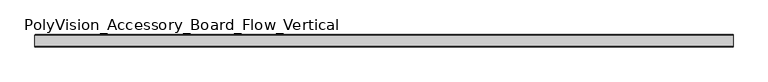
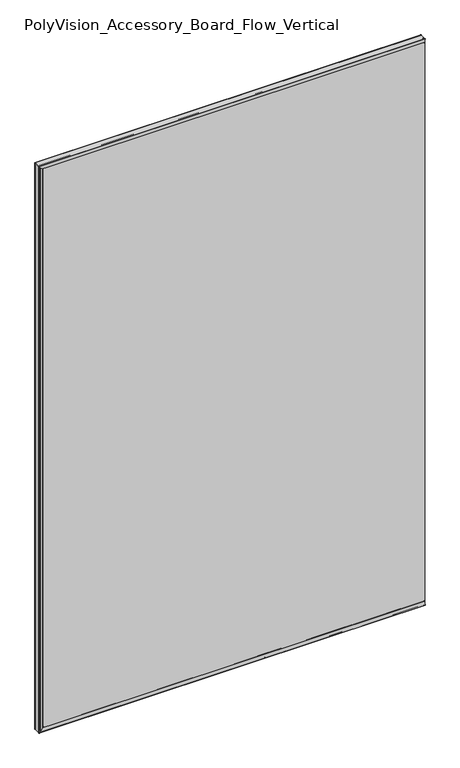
"""IFC4 building model written with IfcOpenShell, lengths in millimetres: furniture geometry, PolyVision_Accessory_Board_Flow_Vertical : 47W x 72H (1185 W x 1830 H)."""

from ifc_helpers import new_model, si_unit, point, frame, frame_2d, origin, place, context, project, spatial, polyline, circle_curve, ellipse_curve, trimmed, segment, composite_curve, outline, extrude, source, transform, mapped, element, save
from ifc_brep_helpers import plane_surface, cylinder_surface, revolved_surface, advanced_brep


def polyvision_accessory_board_flow_vertical_5f54c6b5(model_context):
    return source(origin(), model_context, "Body", "SolidModel", [
        extrude(outline(polyline([(-2.1773004, 1827.6977202), (-2.1773004, 1826.8340763), (11.9065147, 1826.8340763), (11.9065147, 1824.149308), (7.6861579, 1824.149308), (7.6861579, 1817.1597246), (11.9065147, 1814.0934559), (11.9065147, 1804.1500962), (8.0075268, 1801.3173157), (7.7813476, 1800.4732034), (9.5131033, 1798.0), (7.5873908, 1798.0), (6.1707503, 1800.0231723), (6.1707503, 1801.7730492), (10.4011044, 1804.8465813), (10.4011044, 1813.2889188), (6.1707503, 1816.3624509), (6.1707503, 1823.2252503), (5.2024973, 1823.2252503), (4.2308366, 1824.3425727), (3.1736041, 1823.2853402), (2.1319224, 1824.3270218), (1.2210895, 1823.2415334), (0.4403969, 1824.2407744), (-0.5343781, 1823.2659994), (-1.3255269, 1823.2659994), (-1.3255269, 1824.7318758), (-2.1773004, 1824.7318758), (-2.1773004, 1823.8660166), (-5.4323759, 1824.6775981), (-5.4323759, 1826.8964971), (-2.1773004, 1827.6977202)])), frame((-587.0671964, 0.0, 0.0), z_axis=(1.0, 0.0, 0.0), x_axis=(0.0, 1.0, 0.0)), (0.0, 0.0, 1.0), 1174.1343929),
        extrude(outline(polyline([(-2.1773004, 3.0522798), (-5.4323759, 3.8535029), (-5.4323759, 6.0724019), (-2.1773004, 6.8839834), (-2.1773004, 6.0181242), (-1.3255269, 6.0181242), (-1.3255269, 7.4840006), (-0.5343781, 7.4840006), (0.4403969, 6.5092256), (1.2210895, 7.5084666), (2.1319224, 6.4229782), (3.1736041, 7.4646598), (4.2308366, 6.4074273), (5.2024973, 7.5247497), (6.1707503, 7.5247497), (6.1707503, 14.3875491), (10.4011044, 17.4610812), (10.4011044, 25.9034187), (6.1707503, 28.9769508), (6.1707503, 30.7268277), (11.9065147, 38.9183482), (11.9065147, 36.1681457), (7.7813476, 30.2767966), (8.0075268, 29.4326843), (11.9065147, 26.5999038), (11.9065147, 16.6565441), (7.6861579, 13.5902754), (7.6861579, 6.600692), (11.9065147, 6.600692), (11.9065147, 3.9159237), (-2.1773004, 3.9159237), (-2.1773004, 3.0522798)])), frame((-587.0671964, 0.0, 0.0), z_axis=(1.0, 0.0, 0.0), x_axis=(0.0, 1.0, 0.0)), (0.0, 0.0, 1.0), 1174.1343929),
        extrude(outline(polyline([(587.0671964, -6.2220176), (587.0671964, -7.0048301), (-587.0671964, -7.0048301), (-587.0671964, -6.2220176), (587.0671964, -6.2220176)])), frame((0.0, 0.0, 7.0), z_axis=(0.0, 0.0, 1.0), x_axis=(1.0, 0.0, 0.0)), (0.0, 0.0, 1.0), 1817.0),
        extrude(outline(polyline([(585.0671964, 5.9853098), (585.0671964, 5.2024973), (-585.0671964, 5.2024973), (-585.0671964, 5.9853098), (585.0671964, 5.9853098)])), frame((0.0, 0.0, 7.0), z_axis=(0.0, 0.0, 1.0), x_axis=(1.0, 0.0, 0.0)), (0.0, 0.0, 1.0), 1817.0),
        advanced_brep(
        [(587.0671964, -8.6715851, 1829.4960719), (587.0671964, -7.0765247, 1816.4301188), (587.0671964, -6.4849935, 1816.5113924), (587.0671964, -6.7536539, 1823.5810127), (587.0671964, -6.2540145, 1824.1), (587.0671964, -1.2728233, 1824.1), (587.0671964, -1.2728233, 1825.0075276), (587.0671964, -3.0119913, 1824.6901588), (587.0671964, -5.2722627, 1824.6901588), (587.0671964, -6.5482658, 1825.0125), (587.0671964, -6.5482658, 1827.54375), (587.0671964, -4.1898472, 1828.1395287), (587.0671964, -3.6232202, 1827.487699), (587.0671964, -2.5584614, 1828.0926138), (587.0671964, -1.9673188, 1827.5014712), (587.0671964, -1.2361675, 1828.0), (587.0671964, 1.7766235, 1828.0), (587.0671964, 3.5266235, 1827.3), (587.0671964, 11.3266235, 1827.3), (587.0671964, 11.8266235, 1827.8), (587.0671964, 11.8266235, 1829.5), (587.0671964, 11.3266235, 1830.0), (587.0671964, -8.1716005, 1830.0), (587.0671964, -8.6715851, 1.5039281), (587.0671964, -8.1716005, 1.0), (587.0671964, 11.3266235, 1.0), (587.0671964, 11.8266235, 1.5), (587.0671964, 11.8266235, 3.2), (587.0671964, 11.3266235, 3.7), (587.0671964, 3.5266235, 3.7), (587.0671964, 1.7766235, 3.0), (587.0671964, -1.2361675, 3.0), (587.0671964, -1.9673188, 3.4985288), (587.0671964, -2.5584614, 2.9073862), (587.0671964, -3.6232202, 3.512301), (587.0671964, -4.1898472, 2.8604713), (587.0671964, -6.5482658, 3.45625), (587.0671964, -6.5482658, 5.9875), (587.0671964, -5.2722627, 6.3098412), (587.0671964, -3.0119913, 6.3098412), (587.0671964, -1.2728233, 5.9924724), (587.0671964, -1.2728233, 6.9), (587.0671964, -6.2540145, 6.9), (587.0671964, -6.7536539, 7.4189873), (587.0671964, -6.4849935, 14.4886076), (587.0671964, -7.0765247, 14.5698812), (-592.5, -8.1716005, 1830.0), (-591.9960719, -8.6715851, 1829.4960719), (-592.5, 11.3266235, 1830.0), (-592.0, 11.8266235, 1829.5), (-590.3, 11.8266235, 1827.8), (-590.3, 11.8266235, 3.2), (-592.0, 11.8266235, 1.5), (-589.8, 11.3266235, 1827.3), (-589.8, 3.5266235, 1827.3), (-590.5, 1.7766235, 1828.0), (-590.5, -1.2361675, 1828.0), (-590.0014712, -1.9673188, 1827.5014712), (-590.5926138, -2.5584614, 1828.0926138), (-589.987699, -3.6232202, 1827.487699), (-590.6395287, -4.1898472, 1828.1395287), (-590.04375, -6.5482658, 1827.54375), (-587.5125, -6.5482658, 1825.0125), (-587.5125, -6.5482658, 5.9875), (-590.04375, -6.5482658, 3.45625), (-587.1901588, -5.2722627, 1824.6901588), (-587.1901588, -3.0119913, 1824.6901588), (-587.5075276, -1.2728233, 1825.0075276), (-586.6, -1.2728233, 1824.1), (-586.6, -1.2728233, 6.9), (-587.5075276, -1.2728233, 5.9924724), (-586.6, -6.2540145, 1824.1), (-586.0810127, -6.7536539, 1823.5810127), (-579.0113924, -6.4849935, 1816.5113924), (-578.9301188, -7.0765247, 1816.4301188), (-592.5, -8.1716005, 1.0), (-591.9960719, -8.6715851, 1.5039281), (-592.5, 11.3266235, 1.0), (-589.8, 11.3266235, 3.7), (-589.8, 3.5266235, 3.7), (-590.5, 1.7766235, 3.0), (-590.5, -1.2361675, 3.0), (-590.0014712, -1.9673188, 3.4985288), (-590.5926138, -2.5584614, 2.9073862), (-589.987699, -3.6232202, 3.512301), (-590.6395287, -4.1898472, 2.8604713), (-587.1901588, -5.2722627, 6.3098412), (-587.1901588, -3.0119913, 6.3098412), (-586.6, -6.2540145, 6.9), (-586.0810127, -6.7536539, 7.4189873), (-579.0113924, -6.4849935, 14.4886076), (-578.9301188, -7.0765247, 14.5698812)],
        [
            (0, 1, circle_curve(frame((587.0671964, 49.3766235, 1829.9521217), z_axis=(1.0, 0.0, 0.0), x_axis=(0.0, 0.0, -1.0)), 58.05)),
            (1, 2, circle_curve(frame((587.0671964, -6.7847771, 1816.5), z_axis=(1.0, 0.0, 0.0), x_axis=(0.0, 0.0, -1.0)), 0.3)),
            (2, 3),
            (3, 4, circle_curve(frame((587.0671964, -6.2540145, 1823.6), z_axis=(-1.0, 0.0, 0.0), x_axis=(0.0, 0.0, -1.0)), 0.5)),
            (4, 5),
            (5, 6),
            (6, 7),
            (7, 8),
            (8, 9),
            (9, 10),
            (10, 11),
            (11, 12),
            (12, 13),
            (13, 14),
            (14, 15, circle_curve(frame((587.0671964, -2.1069461, 1828.4916753), z_axis=(1.0, 0.0, 0.0), x_axis=(0.0, 0.0, -1.0)), 1.0)),
            (15, 16),
            (16, 17),
            (17, 18),
            (18, 19, circle_curve(frame((587.0671964, 11.3266235, 1827.8), z_axis=(1.0, 0.0, 0.0), x_axis=(0.0, 0.0, -1.0)), 0.5)),
            (19, 20),
            (20, 21, circle_curve(frame((587.0671964, 11.3266235, 1829.5), z_axis=(1.0, 0.0, 0.0), x_axis=(0.0, 0.0, -1.0)), 0.5)),
            (21, 22),
            (22, 0, circle_curve(frame((587.0671964, -8.1716005, 1829.5), z_axis=(1.0, 0.0, 0.0), x_axis=(0.0, 0.0, -1.0)), 0.5)),
            (23, 24, circle_curve(frame((587.0671964, -8.1716005, 1.5), z_axis=(1.0, 0.0, 0.0), x_axis=(0.0, 0.0, 1.0)), 0.5)),
            (24, 25),
            (25, 26, circle_curve(frame((587.0671964, 11.3266235, 1.5), z_axis=(1.0, 0.0, 0.0), x_axis=(0.0, 0.0, 1.0)), 0.5)),
            (26, 27),
            (27, 28, circle_curve(frame((587.0671964, 11.3266235, 3.2), z_axis=(1.0, 0.0, 0.0), x_axis=(0.0, 0.0, 1.0)), 0.5)),
            (28, 29),
            (29, 30),
            (30, 31),
            (31, 32, circle_curve(frame((587.0671964, -2.1069461, 2.5083247), z_axis=(1.0, 0.0, 0.0), x_axis=(0.0, 0.0, 1.0)), 1.0)),
            (32, 33),
            (33, 34),
            (34, 35),
            (35, 36),
            (36, 37),
            (37, 38),
            (38, 39),
            (39, 40),
            (40, 41),
            (41, 42),
            (42, 43, circle_curve(frame((587.0671964, -6.2540145, 7.4), z_axis=(-1.0, 0.0, 0.0), x_axis=(0.0, 0.0, 1.0)), 0.5)),
            (43, 44),
            (44, 45, circle_curve(frame((587.0671964, -6.7847771, 14.5), z_axis=(1.0, 0.0, 0.0), x_axis=(0.0, 0.0, 1.0)), 0.3)),
            (45, 23, circle_curve(frame((587.0671964, 49.3766235, 1.0478783), z_axis=(1.0, 0.0, 0.0), x_axis=(0.0, 0.0, 1.0)), 58.05)),
            (22, 46),
            (46, 47, ellipse_curve(frame((-592.0, -8.1716005, 1829.5), z_axis=(0.7071067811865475, 0.0, 0.7071067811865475), x_axis=(0.7071067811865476, 0.0, -0.7071067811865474)), 0.7071068, 0.5)),
            (47, 0),
            (21, 48),
            (48, 46),
            (20, 49),
            (49, 48, ellipse_curve(frame((-592.0, 11.3266235, 1829.5), z_axis=(0.7071067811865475, 0.0, 0.7071067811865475), x_axis=(0.7071067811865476, 0.0, -0.7071067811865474)), 0.7071068, 0.5)),
            (19, 50),
            (50, 51),
            (51, 27),
            (26, 52),
            (52, 49),
            (18, 53),
            (53, 50, ellipse_curve(frame((-590.3, 11.3266235, 1827.8), z_axis=(0.7071067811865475, 0.0, 0.7071067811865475), x_axis=(0.7071067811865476, 0.0, -0.7071067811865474)), 0.7071068, 0.5)),
            (17, 54),
            (54, 53),
            (16, 55),
            (55, 54),
            (15, 56),
            (56, 55),
            (14, 57),
            (57, 56, ellipse_curve(frame((-590.9916753, -2.1069461, 1828.4916753), z_axis=(0.7071067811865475, 0.0, 0.7071067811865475), x_axis=(0.7071067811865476, 0.0, -0.7071067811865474)), 1.4142136, 1.0)),
            (13, 58),
            (58, 57),
            (12, 59),
            (59, 58),
            (11, 60),
            (60, 59),
            (10, 61),
            (61, 60),
            (9, 62),
            (62, 63),
            (63, 37),
            (36, 64),
            (64, 61),
            (8, 65),
            (65, 62),
            (7, 66),
            (66, 65),
            (6, 67),
            (67, 66),
            (5, 68),
            (68, 69),
            (69, 41),
            (40, 70),
            (70, 67),
            (4, 71),
            (71, 68),
            (3, 72),
            (72, 71, ellipse_curve(frame((-586.1, -6.2540145, 1823.6), z_axis=(-0.7071067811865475, 0.0, -0.7071067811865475), x_axis=(-0.7071067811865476, 0.0, 0.7071067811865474)), 0.7071068, 0.5)),
            (2, 73),
            (73, 72),
            (1, 74),
            (74, 73, ellipse_curve(frame((-579.0, -6.7847771, 1816.5), z_axis=(0.7071067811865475, 0.0, 0.7071067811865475), x_axis=(0.7071067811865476, 0.0, -0.7071067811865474)), 0.4242641, 0.3)),
            (47, 74, ellipse_curve(frame((-592.4521217, 49.3766235, 1829.9521217), z_axis=(0.7071067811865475, 0.0, 0.7071067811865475), x_axis=(0.7071067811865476, 0.0, -0.7071067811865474)), 82.0950973, 58.05)),
            (46, 75),
            (75, 76, ellipse_curve(frame((-592.0, -8.1716005, 1.5), z_axis=(-0.7071067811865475, 0.0, 0.7071067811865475), x_axis=(0.7071067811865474, 0.0, 0.7071067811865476)), 0.7071068, 0.5)),
            (76, 47),
            (48, 77),
            (77, 75),
            (52, 77, ellipse_curve(frame((-592.0, 11.3266235, 1.5), z_axis=(-0.7071067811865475, 0.0, 0.7071067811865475), x_axis=(0.7071067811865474, 0.0, 0.7071067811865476)), 0.7071068, 0.5)),
            (53, 78),
            (78, 51, ellipse_curve(frame((-590.3, 11.3266235, 3.2), z_axis=(-0.7071067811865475, 0.0, 0.7071067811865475), x_axis=(0.7071067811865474, 0.0, 0.7071067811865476)), 0.7071068, 0.5)),
            (54, 79),
            (79, 78),
            (55, 80),
            (80, 79),
            (56, 81),
            (81, 80),
            (57, 82),
            (82, 81, ellipse_curve(frame((-590.9916753, -2.1069461, 2.5083247), z_axis=(-0.7071067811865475, 0.0, 0.7071067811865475), x_axis=(0.7071067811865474, 0.0, 0.7071067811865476)), 1.4142136, 1.0)),
            (58, 83),
            (83, 82),
            (59, 84),
            (84, 83),
            (60, 85),
            (85, 84),
            (64, 85),
            (65, 86),
            (86, 63),
            (66, 87),
            (87, 86),
            (70, 87),
            (71, 88),
            (88, 69),
            (72, 89),
            (89, 88, ellipse_curve(frame((-586.1, -6.2540145, 7.4), z_axis=(0.7071067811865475, 0.0, -0.7071067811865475), x_axis=(-0.7071067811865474, 0.0, -0.7071067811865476)), 0.7071068, 0.5)),
            (73, 90),
            (90, 89),
            (74, 91),
            (91, 90, ellipse_curve(frame((-579.0, -6.7847771, 14.5), z_axis=(-0.7071067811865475, 0.0, 0.7071067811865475), x_axis=(0.7071067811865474, 0.0, 0.7071067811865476)), 0.4242641, 0.3)),
            (76, 91, ellipse_curve(frame((-592.4521217, 49.3766235, 1.0478783), z_axis=(-0.7071067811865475, 0.0, 0.7071067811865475), x_axis=(0.7071067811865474, 0.0, 0.7071067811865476)), 82.0950973, 58.05)),
            (75, 24),
            (23, 76),
            (77, 25),
            (78, 28),
            (79, 29),
            (80, 30),
            (81, 31),
            (82, 32),
            (83, 33),
            (84, 34),
            (85, 35),
            (86, 38),
            (87, 39),
            (88, 42),
            (89, 43),
            (90, 44),
            (91, 45),
        ],
        [
            plane_surface(frame((587.0671964, -3.3270175, 1830.0), z_axis=(1.0, 0.0, 0.0), x_axis=(0.0, -1.0, 0.0))),
            plane_surface(frame((587.0671964, -3.3270175, 1.0), z_axis=(1.0, 0.0, 0.0), x_axis=(0.0, -1.0, 0.0))),
            cylinder_surface(frame((587.0671964, -8.1716005, 1829.5), z_axis=(1.0, 0.0, 0.0), x_axis=(0.0, 0.0, -1.0)), 0.5),
            plane_surface(frame((587.0671964, 11.3266235, 1830.0), z_axis=(0.0, 0.0, 1.0), x_axis=(-1.0, 0.0, 0.0))),
            cylinder_surface(frame((587.0671964, 11.3266235, 1829.5), z_axis=(1.0, 0.0, 0.0), x_axis=(0.0, 0.0, -1.0)), 0.5),
            plane_surface(frame((587.0671964, 11.8266235, 1827.8), z_axis=(0.0, 1.0, 0.0), x_axis=(-1.0, 0.0, 0.0))),
            cylinder_surface(frame((587.0671964, 11.3266235, 1827.8), z_axis=(1.0, 0.0, 0.0), x_axis=(0.0, 0.0, -1.0)), 0.5),
            plane_surface(frame((587.0671964, 3.5266235, 1827.3), z_axis=(0.0, 0.0, -1.0), x_axis=(-1.0, 0.0, 0.0))),
            plane_surface(frame((587.0671964, 1.7766235, 1828.0), z_axis=(0.0, -0.37139067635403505, -0.9284766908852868), x_axis=(-1.0, 0.0, 0.0))),
            plane_surface(frame((587.0671964, -1.2361675, 1828.0), z_axis=(0.0, 0.0, -1.0), x_axis=(-1.0, 0.0, 0.0))),
            cylinder_surface(frame((587.0671964, -2.1069461, 1828.4916753), z_axis=(1.0, 0.0, 0.0), x_axis=(0.0, 0.0, -1.0)), 1.0),
            plane_surface(frame((587.0671964, -2.5584614, 1828.0926138), z_axis=(0.0, -0.7071067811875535, -0.7071067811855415), x_axis=(-1.0, 0.0, 0.0))),
            plane_surface(frame((587.0671964, -3.6232202, 1827.487699), z_axis=(0.0, 0.49397121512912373, -0.8694782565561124), x_axis=(-1.0, 0.0, 0.0))),
            plane_surface(frame((587.0671964, -4.1898472, 1828.1395287), z_axis=(0.0, -0.754709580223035, -0.6560590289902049), x_axis=(-1.0, 0.0, 0.0))),
            plane_surface(frame((587.0671964, -5.3408915, 1827.8487543), z_axis=(0.0, 0.2449237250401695, -0.969542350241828), x_axis=(-1.0, 0.0, 0.0))),
            plane_surface(frame((587.0671964, -6.5482658, 1825.0125), z_axis=(0.0, 1.0, 0.0), x_axis=(-1.0, 0.0, 0.0))),
            plane_surface(frame((587.0671964, -5.2722627, 1824.6901588), z_axis=(0.0, 0.244923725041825, 0.9695423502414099), x_axis=(-1.0, 0.0, 0.0))),
            plane_surface(frame((587.0671964, -3.0119913, 1824.6901588), z_axis=(0.0, 0.0, 1.0), x_axis=(-1.0, 0.0, 0.0))),
            plane_surface(frame((587.0671964, -1.2728233, 1825.0075276), z_axis=(0.0, -0.17951862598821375, 0.9837545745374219), x_axis=(-1.0, 0.0, 0.0))),
            plane_surface(frame((587.0671964, -1.2728233, 1824.1), z_axis=(0.0, 1.0, 0.0), x_axis=(-1.0, 0.0, 0.0))),
            plane_surface(frame((587.0671964, -6.2540145, 1824.1), z_axis=(0.0, 0.0, -1.0), x_axis=(-1.0, 0.0, 0.0))),
            revolved_surface(polyline([(-586.6000000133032, -6.2540145, 1823.1), (587.0671964, -6.2540145, 1823.1)]), (587.0671964, -6.2540145, 1823.6), (-1.0, 0.0, 0.0)),
            plane_surface(frame((587.0671964, -6.4849935, 1816.5113924), z_axis=(0.0, 0.9992787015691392, 0.037974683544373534), x_axis=(-1.0, 0.0, 0.0))),
            cylinder_surface(frame((587.0671964, -6.7847771, 1816.5), z_axis=(1.0, 0.0, 0.0), x_axis=(0.0, 0.0, -1.0)), 0.3),
            cylinder_surface(frame((587.0671964, 49.3766235, 1829.9521217), z_axis=(1.0, 0.0, 0.0), x_axis=(0.0, 0.0, -1.0)), 58.05),
            cylinder_surface(frame((-592.0, -8.1716005, 1830.0), z_axis=(0.0, 0.0, 1.0), x_axis=(1.0, 0.0, 0.0)), 0.5),
            plane_surface(frame((-592.5, 11.3266235, 1830.0), z_axis=(-1.0, 0.0, 0.0), x_axis=(0.0, 0.0, -1.0))),
            cylinder_surface(frame((-592.0, 11.3266235, 1830.0), z_axis=(0.0, 0.0, 1.0), x_axis=(1.0, 0.0, 0.0)), 0.5),
            cylinder_surface(frame((-590.3, 11.3266235, 1830.0), z_axis=(0.0, 0.0, 1.0), x_axis=(1.0, 0.0, 0.0)), 0.5),
            plane_surface(frame((-589.8, 3.5266235, 1827.3), z_axis=(1.0, 0.0, 0.0), x_axis=(0.0, 0.0, -1.0))),
            plane_surface(frame((-590.5, 1.7766235, 1828.0), z_axis=(0.9284766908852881, -0.371390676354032, 0.0), x_axis=(0.0, 0.0, -1.0))),
            plane_surface(frame((-590.5, -1.2361675, 1828.0), z_axis=(1.0, 0.0, 0.0), x_axis=(0.0, 0.0, -1.0))),
            cylinder_surface(frame((-590.9916753, -2.1069461, 1830.0), z_axis=(0.0, 0.0, 1.0), x_axis=(1.0, 0.0, 0.0)), 1.0),
            plane_surface(frame((-590.5926138, -2.5584614, 1828.0926138), z_axis=(0.7071067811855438, -0.7071067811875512, 0.0), x_axis=(0.0, 0.0, -1.0))),
            plane_surface(frame((-589.987699, -3.6232202, 1827.487699), z_axis=(0.8694782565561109, 0.4939712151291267, 0.0), x_axis=(0.0, 0.0, -1.0))),
            plane_surface(frame((-590.6395287, -4.1898472, 1828.1395287), z_axis=(0.6560590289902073, -0.7547095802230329, 0.0), x_axis=(0.0, 0.0, -1.0))),
            plane_surface(frame((-590.3487543, -5.3408915, 1827.8487543), z_axis=(0.9695423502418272, 0.24492372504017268, 0.0), x_axis=(0.0, 0.0, -1.0))),
            plane_surface(frame((-587.1901588, -5.2722627, 1824.6901588), z_axis=(-0.9695423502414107, 0.2449237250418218, 0.0), x_axis=(0.0, 0.0, -1.0))),
            plane_surface(frame((-587.1901588, -3.0119913, 1824.6901588), z_axis=(-1.0, 0.0, 0.0), x_axis=(0.0, 0.0, -1.0))),
            plane_surface(frame((-587.5075276, -1.2728233, 1825.0075276), z_axis=(-0.9837545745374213, -0.179518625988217, 0.0), x_axis=(0.0, 0.0, -1.0))),
            plane_surface(frame((-586.6, -6.2540145, 1824.1), z_axis=(1.0, 0.0, 0.0), x_axis=(0.0, 0.0, -1.0))),
            revolved_surface(polyline([(-585.6, -6.2540145, 6.899999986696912), (-585.6, -6.2540145, 1824.100000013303)]), (-586.1, -6.2540145, 1830.0), (0.0, 0.0, -1.0)),
            plane_surface(frame((-579.0113924, -6.4849935, 1816.5113924), z_axis=(-0.037974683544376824, 0.9992787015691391, 0.0), x_axis=(0.0, 0.0, -1.0))),
            cylinder_surface(frame((-579.0, -6.7847771, 1830.0), z_axis=(0.0, 0.0, 1.0), x_axis=(1.0, 0.0, 0.0)), 0.3),
            cylinder_surface(frame((-592.4521217, 49.3766235, 1830.0), z_axis=(0.0, 0.0, 1.0), x_axis=(1.0, 0.0, 0.0)), 58.05),
            cylinder_surface(frame((-592.5, -8.1716005, 1.5), z_axis=(-1.0, 0.0, 0.0), x_axis=(0.0, 0.0, 1.0)), 0.5),
            plane_surface(frame((-592.5, 11.3266235, 1.0), z_axis=(0.0, 0.0, -1.0), x_axis=(1.0, 0.0, 0.0))),
            cylinder_surface(frame((-592.5, 11.3266235, 1.5), z_axis=(-1.0, 0.0, 0.0), x_axis=(0.0, 0.0, 1.0)), 0.5),
            cylinder_surface(frame((-592.5, 11.3266235, 3.2), z_axis=(-1.0, 0.0, 0.0), x_axis=(0.0, 0.0, 1.0)), 0.5),
            plane_surface(frame((-589.8, 3.5266235, 3.7), z_axis=(0.0, 0.0, 1.0), x_axis=(1.0, 0.0, 0.0))),
            plane_surface(frame((-590.5, 1.7766235, 3.0), z_axis=(0.0, -0.37139067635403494, 0.9284766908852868), x_axis=(1.0, 0.0, 0.0))),
            plane_surface(frame((-590.5, -1.2361675, 3.0), z_axis=(0.0, 0.0, 1.0), x_axis=(1.0, 0.0, 0.0))),
            cylinder_surface(frame((-592.5, -2.1069461, 2.5083247), z_axis=(-1.0, 0.0, 0.0), x_axis=(0.0, 0.0, 1.0)), 1.0),
            plane_surface(frame((-590.5926138, -2.5584614, 2.9073862), z_axis=(0.0, -0.7071067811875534, 0.7071067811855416), x_axis=(1.0, 0.0, 0.0))),
            plane_surface(frame((-589.987699, -3.6232202, 3.512301), z_axis=(0.0, 0.4939712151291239, 0.8694782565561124), x_axis=(1.0, 0.0, 0.0))),
            plane_surface(frame((-590.6395287, -4.1898472, 2.8604713), z_axis=(0.0, -0.754709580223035, 0.6560590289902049), x_axis=(1.0, 0.0, 0.0))),
            plane_surface(frame((-590.3487543, -5.3408915, 3.1512457), z_axis=(0.0, 0.2449237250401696, 0.969542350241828), x_axis=(1.0, 0.0, 0.0))),
            plane_surface(frame((-587.1901588, -5.2722627, 6.3098412), z_axis=(0.0, 0.24492372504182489, -0.9695423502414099), x_axis=(1.0, 0.0, 0.0))),
            plane_surface(frame((-587.1901588, -3.0119913, 6.3098412), z_axis=(0.0, 0.0, -1.0), x_axis=(1.0, 0.0, 0.0))),
            plane_surface(frame((-587.5075276, -1.2728233, 5.9924724), z_axis=(0.0, -0.1795186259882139, -0.9837545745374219), x_axis=(1.0, 0.0, 0.0))),
            plane_surface(frame((-586.6, -6.2540145, 6.9), z_axis=(0.0, 0.0, 1.0), x_axis=(1.0, 0.0, 0.0))),
            revolved_surface(polyline([(587.0671963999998, -6.2540145, 7.9), (-586.6000000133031, -6.2540145, 7.9)]), (-592.5, -6.2540145, 7.4), (1.0, 0.0, 0.0)),
            plane_surface(frame((-579.0113924, -6.4849935, 14.4886076), z_axis=(0.0, 0.9992787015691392, -0.03797468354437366), x_axis=(1.0, 0.0, 0.0))),
            cylinder_surface(frame((-592.5, -6.7847771, 14.5), z_axis=(-1.0, 0.0, 0.0), x_axis=(0.0, 0.0, 1.0)), 0.3),
            cylinder_surface(frame((-592.5, 49.3766235, 1.0478783), z_axis=(-1.0, 0.0, 0.0), x_axis=(0.0, 0.0, 1.0)), 58.05),
        ],
        [
            (0, [[1, 2, 3, 4, 5, 6, 7, 8, 9, 10, 11, 12, 13, 14, 15, 16, 17, 18, 19, 20, 21, 22, 23]]),
            (1, [[24, 25, 26, 27, 28, 29, 30, 31, 32, 33, 34, 35, 36, 37, 38, 39, 40, 41, 42, 43, 44, 45, 46]]),
            (2, [[-23, 47, 48, 49]]),
            (3, [[-22, 50, 51, -47]]),
            (4, [[-21, 52, 53, -50]]),
            (5, [[-20, 54, 55, 56, -27, 57, 58, -52]]),
            (6, [[-19, 59, 60, -54]]),
            (7, [[-18, 61, 62, -59]]),
            (8, [[-17, 63, 64, -61]]),
            (9, [[-16, 65, 66, -63]]),
            (10, [[-15, 67, 68, -65]]),
            (11, [[-14, 69, 70, -67]]),
            (12, [[-13, 71, 72, -69]]),
            (13, [[-12, 73, 74, -71]]),
            (14, [[75, 76, -73, -11]]),
            (15, [[-10, 77, 78, 79, -37, 80, 81, -75]]),
            (16, [[-9, 82, 83, -77]]),
            (17, [[-8, 84, 85, -82]]),
            (18, [[-7, 86, 87, -84]]),
            (19, [[-6, 88, 89, 90, -41, 91, 92, -86]]),
            (20, [[-5, 93, 94, -88]]),
            (21, [[-4, 95, 96, -93]]),
            (22, [[-3, 97, 98, -95]]),
            (23, [[-2, 99, 100, -97]]),
            (24, [[-1, -49, 101, -99]]),
            (25, [[-48, 102, 103, 104]]),
            (26, [[-51, 105, 106, -102]]),
            (27, [[-53, -58, 107, -105]]),
            (28, [[-60, 108, 109, -55]]),
            (29, [[-62, 110, 111, -108]]),
            (30, [[-64, 112, 113, -110]]),
            (31, [[-66, 114, 115, -112]]),
            (32, [[-68, 116, 117, -114]]),
            (33, [[-70, 118, 119, -116]]),
            (34, [[-72, 120, 121, -118]]),
            (35, [[-74, 122, 123, -120]]),
            (36, [[-76, -81, 124, -122]]),
            (37, [[-83, 125, 126, -78]]),
            (38, [[-85, 127, 128, -125]]),
            (39, [[-87, -92, 129, -127]]),
            (40, [[-94, 130, 131, -89]]),
            (41, [[-96, 132, 133, -130]]),
            (42, [[-98, 134, 135, -132]]),
            (43, [[-100, 136, 137, -134]]),
            (44, [[-101, -104, 138, -136]]),
            (45, [[-103, 139, -24, 140]]),
            (46, [[-106, 141, -25, -139]]),
            (47, [[-107, -57, -26, -141]]),
            (48, [[-109, 142, -28, -56]]),
            (49, [[-111, 143, -29, -142]]),
            (50, [[-113, 144, -30, -143]]),
            (51, [[-115, 145, -31, -144]]),
            (52, [[-117, 146, -32, -145]]),
            (53, [[-119, 147, -33, -146]]),
            (54, [[-121, 148, -34, -147]]),
            (55, [[-123, 149, -35, -148]]),
            (56, [[-124, -80, -36, -149]]),
            (57, [[-126, 150, -38, -79]]),
            (58, [[-128, 151, -39, -150]]),
            (59, [[-129, -91, -40, -151]]),
            (60, [[-131, 152, -42, -90]]),
            (61, [[-133, 153, -43, -152]]),
            (62, [[-135, 154, -44, -153]]),
            (63, [[-137, 155, -45, -154]]),
            (64, [[-138, -140, -46, -155]]),
        ],
    ),
        extrude(outline(composite_curve([segment(polyline([(-587.178125, 11.9065147), (-587.178125, 7.7013244), (-580.1500518, 7.7013244), (-577.1500518, 11.9013244), (-567.1061982, 11.9013244), (-563.9709693, 7.5120041), (-557.778125, 11.9013244), (-556.491294, 11.9013244)]), True, "CONTINUOUS"), segment(trimmed(circle_curve(frame_2d((-556.491294, 11.4060617)), 0.4952627), [point((-556.491294, 11.9013244))], [point((-556.2049054, 11.0019991))], False, "CARTESIAN"), True, "CONTINUOUS"), segment(polyline([(-556.2049054, 11.0019991), (-563.022318, 6.1700016), (-564.8557516, 6.1700016), (-567.878125, 10.4013244), (-576.378125, 10.4013244), (-579.329448, 6.2694723), (-585.9521081, 6.2694723), (-586.3942854, 5.1112467), (-587.5676821, 4.2013244), (-586.278125, 3.2013244), (-587.5819668, 2.1902472), (-586.278125, 1.2679911), (-587.6054758, 0.3291062), (-587.7708901, -1.6777781)]), True, "CONTINUOUS"), segment(trimmed(circle_curve(frame_2d((-587.9352478, -2.1614381)), 0.5108233), [point((-587.7708901, -1.6777781))], [point((-587.4519342, -2.3268115))], False, "CARTESIAN"), True, "CONTINUOUS"), segment(polyline([(-587.4519342, -2.3268115), (-587.7207772, -3.1125214)]), True, "CONTINUOUS"), segment(trimmed(circle_curve(frame_2d((-588.4335511, -3.6561181)), 0.8964062), [point((-587.7207772, -3.1125214))], [point((-587.5854196, -3.9463196))], False, "CARTESIAN"), True, "CONTINUOUS"), segment(polyline([(-587.5854196, -3.9463196), (-588.0823661, -5.3986756), (-589.878125, -5.3986756), (-590.2493178, -3.929291)]), True, "CONTINUOUS"), segment(trimmed(circle_curve(frame_2d((-589.5575806, -3.7545459)), 0.7134678), [point((-590.2493178, -3.929291))], [point((-590.0201742, -3.2113669))], False, "CARTESIAN"), True, "CONTINUOUS"), segment(polyline([(-590.0201742, -3.2113669), (-590.2493178, -2.304291)]), True, "CONTINUOUS"), segment(trimmed(circle_curve(frame_2d((-589.7175534, -2.1699579)), 0.5484695), [point((-590.2493178, -2.304291))], [point((-589.878125, -1.6455195))], False, "CARTESIAN"), True, "CONTINUOUS"), segment(polyline([(-589.878125, -1.6455195), (-589.878125, 11.9065147), (-587.178125, 11.9065147)]), True, "CONTINUOUS")], self_intersect=False)), frame((0.0, 0.0, 39.0), z_axis=(0.0, 0.0, 1.0), x_axis=(1.0, 0.0, 0.0)), (0.0, 0.0, 1.0), 1759.0),
        extrude(outline(polyline([(585.0671964, 5.2024973), (585.0671964, 0.2355242), (575.0671964, 0.2355242), (575.0671964, -2.1351563), (587.0671964, -2.1351563), (587.0671964, -5.7140707), (-587.0671964, -5.7140707), (-587.0671964, -2.1351563), (-575.0671964, -2.1351563), (-575.0671964, 0.2355242), (-585.0671964, 0.2355242), (-585.0671964, 5.2024973), (585.0671964, 5.2024973)])), frame((0.0, 0.0, 7.0), z_axis=(0.0, 0.0, 1.0), x_axis=(1.0, 0.0, 0.0)), (0.0, 0.0, 1.0), 1817.0),
    ])


if __name__ == "__main__":
    model = new_model("IFC4")
    model_context = context("Model", 3, world=origin())
    ifc_project = project(units=[si_unit("LENGTHUNIT", "METRE", prefix="MILLI")], contexts=[model_context])
    site = spatial("IfcSite", under=ifc_project)
    building = spatial("IfcBuilding", under=site)
    placement = place(None, origin())
    polyvision_accessory_board_flow_vertical_shape = polyvision_accessory_board_flow_vertical_5f54c6b5(model_context)
    element("IfcFurniture", 1, ObjectType="PolyVision_Accessory_Board_Flow_Vertical : 47W x 72H (1185 W x 1830 H)", at=placement, inside=building, context=model_context, shape_type="MappedRepresentation", body=[
        mapped(polyvision_accessory_board_flow_vertical_shape, transform((0.0, 0.0, 0.0), x_axis=(1.0, 0.0, 0.0), y_axis=(0.0, 1.0, 0.0), z_axis=(0.0, 0.0, 1.0))),
    ])
    save(model, "model.ifc")
